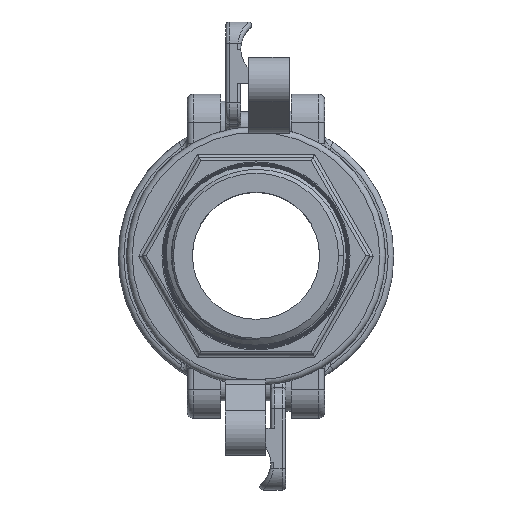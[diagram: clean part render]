
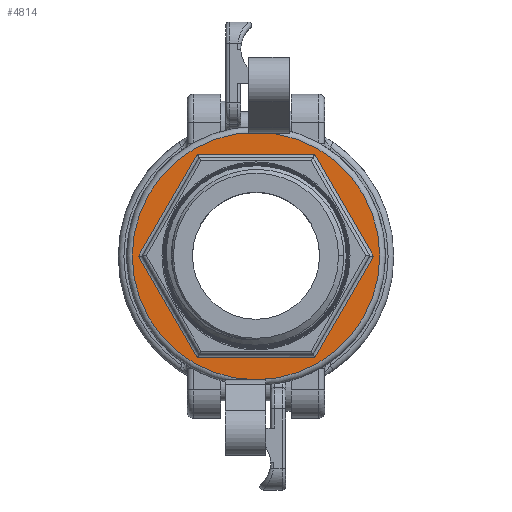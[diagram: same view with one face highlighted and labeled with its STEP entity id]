
A CAD part, top view. The second image highlights one B-rep face of the part: STEP entity #4814.
In plain terms, the highlighted planar face has unit normal (0, 0, 1).
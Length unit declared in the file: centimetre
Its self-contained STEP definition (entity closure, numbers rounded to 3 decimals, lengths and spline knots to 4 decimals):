
#763=PLANE('',#5173);
#1091=VECTOR('',#5889,1.);
#1092=VECTOR('',#5896,1.);
#1093=VECTOR('',#5901,1.);
#1094=VECTOR('',#5906,1.);
#1096=VECTOR('',#5912,1.);
#1098=VECTOR('',#5918,1.);
#1366=LINE('',#7979,#1091);
#1367=LINE('',#7985,#1092);
#1368=LINE('',#7989,#1093);
#1369=LINE('',#7993,#1094);
#1371=LINE('',#7999,#1096);
#1373=LINE('',#8005,#1098);
#1705=VERTEX_POINT('',#7980);
#1706=VERTEX_POINT('',#7981);
#1707=VERTEX_POINT('',#7986);
#1708=VERTEX_POINT('',#7990);
#1709=VERTEX_POINT('',#7994);
#1711=VERTEX_POINT('',#8000);
#1713=VERTEX_POINT('',#8009);
#2040=CIRCLE('',#5174,2.794);
#2397=EDGE_CURVE('',#1705,#1706,#1366,.T.);
#2400=EDGE_CURVE('',#1707,#1705,#1367,.T.);
#2402=EDGE_CURVE('',#1708,#1707,#1368,.T.);
#2404=EDGE_CURVE('',#1709,#1708,#1369,.T.);
#2407=EDGE_CURVE('',#1711,#1709,#1371,.T.);
#2410=EDGE_CURVE('',#1706,#1711,#1373,.T.);
#2412=EDGE_CURVE('',#1713,#1713,#2040,.T.);
#3237=ORIENTED_EDGE('',*,*,#2412,.F.);
#3238=ORIENTED_EDGE('',*,*,#2397,.F.);
#3239=ORIENTED_EDGE('',*,*,#2400,.F.);
#3240=ORIENTED_EDGE('',*,*,#2402,.F.);
#3241=ORIENTED_EDGE('',*,*,#2404,.F.);
#3242=ORIENTED_EDGE('',*,*,#2407,.F.);
#3243=ORIENTED_EDGE('',*,*,#2410,.F.);
#4189=EDGE_LOOP('',(#3237));
#4190=EDGE_LOOP('',(#3238,#3239,#3240,#3241,#3242,#3243));
#4508=FACE_BOUND('',#4189,.T.);
#4509=FACE_BOUND('',#4190,.T.);
#4814=ADVANCED_FACE('',(#4508,#4509),#763,.T.);
#5173=AXIS2_PLACEMENT_3D('',#8007,#5920,$);
#5174=AXIS2_PLACEMENT_3D('',#8008,#5921,#5922);
#5889=DIRECTION('',(1.,0.,0.));
#5896=DIRECTION('',(0.5,-0.866,0.));
#5901=DIRECTION('',(-0.5,-0.866,0.));
#5906=DIRECTION('',(-1.,0.,0.));
#5912=DIRECTION('',(-0.5,0.866,0.));
#5918=DIRECTION('',(0.5,0.866,0.));
#5920=DIRECTION('',(0.,0.,1.));
#5921=DIRECTION('',(0.,0.,-1.));
#5922=DIRECTION('',(0.,-2.794,0.));
#7979=CARTESIAN_POINT('',(0.,-2.2987,4.7498));
#7980=CARTESIAN_POINT('',(-1.3272,-2.2987,4.7498));
#7981=CARTESIAN_POINT('',(1.3272,-2.2987,4.7498));
#7985=CARTESIAN_POINT('',(-2.3069,-0.6017,4.7498));
#7986=CARTESIAN_POINT('',(-2.6543,0.,4.7498));
#7989=CARTESIAN_POINT('',(-1.6745,1.697,4.7498));
#7990=CARTESIAN_POINT('',(-1.3272,2.2987,4.7498));
#7993=CARTESIAN_POINT('',(0.,2.2987,4.7498));
#7994=CARTESIAN_POINT('',(1.3272,2.2987,4.7498));
#7999=CARTESIAN_POINT('',(1.6745,1.697,4.7498));
#8000=CARTESIAN_POINT('',(2.6543,0.,4.7498));
#8005=CARTESIAN_POINT('',(2.3069,-0.6017,4.7498));
#8007=CARTESIAN_POINT('',(0.,1.4605,4.7498));
#8008=CARTESIAN_POINT('',(0.,0.,4.7498));
#8009=CARTESIAN_POINT('',(0.,2.794,4.7498));
